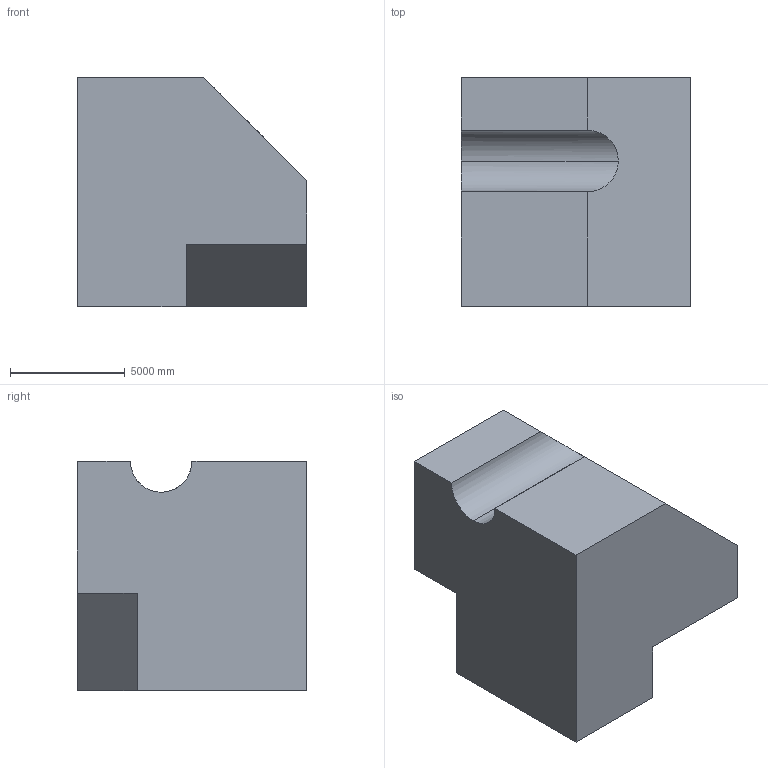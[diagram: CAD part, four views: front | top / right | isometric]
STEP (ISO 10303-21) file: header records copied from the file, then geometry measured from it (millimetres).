
FILE_DESCRIPTION (( 'STEP AP203' ), '1' );
FILE_NAME ('316.STEP', '2022-07-28T14:18:54', ( 'user' ), ( '' ), 'SwSTEP 2.0', 'SolidWorks 2021', '' );
FILE_SCHEMA (( 'CONFIG_CONTROL_DESIGN' ));
Length unit declared in the file: centimetre
Products named in the file (1): 316
Bounding box: 10000 x 10000 x 10000 mm (x, y, z)
Volume: 840612330578.5 mm3; surface area: 542380918.5 mm2
Topology: 1 solids, 1 shells, 14 faces, 36 edges, 24 vertices
Faces by surface type: plane 12, cylinder 2
Entity records: 499 total; most frequent: CARTESIAN_POINT 81, ORIENTED_EDGE 72, DIRECTION 66, EDGE_CURVE 36, LINE 32, VECTOR 32, VERTEX_POINT 24, AXIS2_PLACEMENT_3D 17
